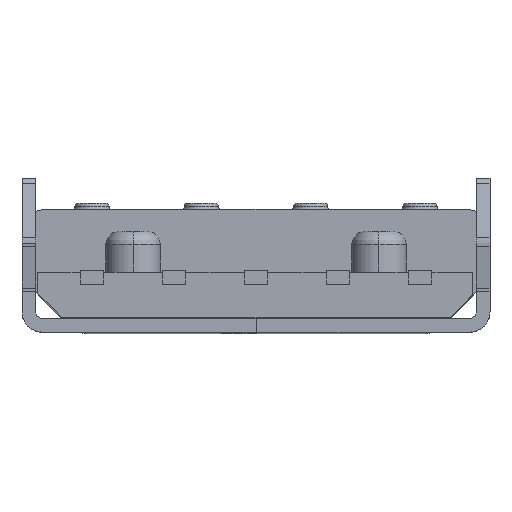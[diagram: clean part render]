
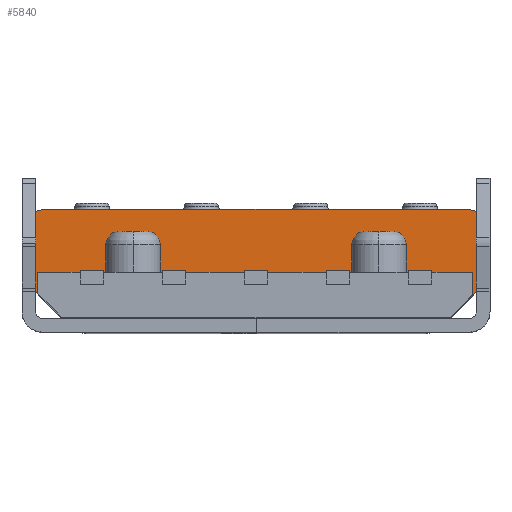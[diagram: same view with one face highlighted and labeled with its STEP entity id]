
A CAD part, top view. The second image highlights one B-rep face of the part: STEP entity #5840.
In plain terms, the highlighted planar face has unit normal (0, 0, 1).
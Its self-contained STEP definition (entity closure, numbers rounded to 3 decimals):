
#93=DIRECTION('',(1.,0.,0.));
#94=VECTOR('',#93,6.364);
#95=CARTESIAN_POINT('',(-3.195,-0.005,4.9));
#96=LINE('',#95,#94);
#461=DIRECTION('',(-0.707,0.707,0.));
#462=VECTOR('',#461,0.181);
#463=CARTESIAN_POINT('',(-3.195,-0.315,4.9));
#464=LINE('',#463,#462);
#465=CARTESIAN_POINT('',(-3.075,0.06,4.9));
#466=DIRECTION('',(0.,0.,-1.));
#467=DIRECTION('',(-0.707,-0.707,0.));
#468=AXIS2_PLACEMENT_3D('',#465,#466,#467);
#470=CARTESIAN_POINT('',(-3.075,0.565,4.9));
#471=DIRECTION('',(0.,0.,-1.));
#472=DIRECTION('',(-1.,0.,0.));
#473=AXIS2_PLACEMENT_3D('',#470,#471,#472);
#475=CARTESIAN_POINT('',(3.075,0.565,4.9));
#476=DIRECTION('',(0.,0.,-1.));
#477=DIRECTION('',(0.,1.,0.));
#478=AXIS2_PLACEMENT_3D('',#475,#476,#477);
#480=CARTESIAN_POINT('',(3.075,0.06,4.9));
#481=DIRECTION('',(0.,0.,-1.));
#482=DIRECTION('',(1.,0.,0.));
#483=AXIS2_PLACEMENT_3D('',#480,#481,#482);
#485=DIRECTION('',(-0.707,-0.707,0.));
#486=VECTOR('',#485,0.216);
#487=CARTESIAN_POINT('',(3.322,-0.188,4.9));
#488=LINE('',#487,#486);
#489=DIRECTION('',(0.,1.,0.));
#490=VECTOR('',#489,0.335);
#491=CARTESIAN_POINT('',(3.17,-0.34,4.9));
#492=LINE('',#491,#490);
#493=DIRECTION('',(0.,1.,0.));
#494=VECTOR('',#493,0.31);
#495=CARTESIAN_POINT('',(-3.195,-0.315,4.9));
#496=LINE('',#495,#494);
#509=DIRECTION('',(0.,-1.,0.));
#510=VECTOR('',#509,0.505);
#511=CARTESIAN_POINT('',(-3.425,0.565,4.9));
#512=LINE('',#511,#510);
#2964=DIRECTION('',(0.,1.,0.));
#2965=VECTOR('',#2964,0.505);
#2966=CARTESIAN_POINT('',(3.425,0.06,4.9));
#2967=LINE('',#2966,#2965);
#2980=DIRECTION('',(-1.,0.,0.));
#2981=VECTOR('',#2980,6.15);
#2982=CARTESIAN_POINT('',(3.075,0.915,4.9));
#2983=LINE('',#2982,#2981);
#4094=CARTESIAN_POINT('',(-3.195,-0.005,4.9));
#4095=VERTEX_POINT('',#4094);
#4096=CARTESIAN_POINT('',(3.17,-0.005,4.9));
#4097=VERTEX_POINT('',#4096);
#4132=CARTESIAN_POINT('',(3.17,-0.34,4.9));
#4133=VERTEX_POINT('',#4132);
#4134=CARTESIAN_POINT('',(-3.195,-0.315,4.9));
#4135=VERTEX_POINT('',#4134);
#4136=CARTESIAN_POINT('',(-3.322,-0.188,4.9));
#4137=VERTEX_POINT('',#4136);
#4138=CARTESIAN_POINT('',(-3.425,0.06,4.9));
#4139=VERTEX_POINT('',#4138);
#4140=CARTESIAN_POINT('',(-3.425,0.565,4.9));
#4141=VERTEX_POINT('',#4140);
#4142=CARTESIAN_POINT('',(-3.075,0.915,4.9));
#4143=VERTEX_POINT('',#4142);
#4144=CARTESIAN_POINT('',(3.075,0.915,4.9));
#4145=VERTEX_POINT('',#4144);
#4146=CARTESIAN_POINT('',(3.425,0.565,4.9));
#4147=VERTEX_POINT('',#4146);
#4148=CARTESIAN_POINT('',(3.425,0.06,4.9));
#4149=VERTEX_POINT('',#4148);
#4150=CARTESIAN_POINT('',(3.322,-0.188,4.9));
#4151=VERTEX_POINT('',#4150);
#5811=CARTESIAN_POINT('',(0.,0.,4.9));
#5812=DIRECTION('',(0.,0.,1.));
#5813=DIRECTION('',(1.,0.,0.));
#5814=AXIS2_PLACEMENT_3D('',#5811,#5812,#5813);
#5815=PLANE('',#5814);
#5817=ORIENTED_EDGE('',*,*,#5816,.F.);
#5819=ORIENTED_EDGE('',*,*,#5818,.T.);
#5821=ORIENTED_EDGE('',*,*,#5820,.T.);
#5823=ORIENTED_EDGE('',*,*,#5822,.F.);
#5825=ORIENTED_EDGE('',*,*,#5824,.T.);
#5827=ORIENTED_EDGE('',*,*,#5826,.F.);
#5829=ORIENTED_EDGE('',*,*,#5828,.T.);
#5831=ORIENTED_EDGE('',*,*,#5830,.F.);
#5833=ORIENTED_EDGE('',*,*,#5832,.T.);
#5835=ORIENTED_EDGE('',*,*,#5834,.T.);
#5836=ORIENTED_EDGE('',*,*,#5802,.T.);
#5837=ORIENTED_EDGE('',*,*,#5335,.F.);
#5838=EDGE_LOOP('',(#5817,#5819,#5821,#5823,#5825,#5827,#5829,#5831,#5833,#5835,
#5836,#5837));
#5839=FACE_OUTER_BOUND('',#5838,.F.);
#469=CIRCLE('',#468,0.35);
#474=CIRCLE('',#473,0.35);
#479=CIRCLE('',#478,0.35);
#484=CIRCLE('',#483,0.35);
#5335=EDGE_CURVE('',#4095,#4097,#96,.T.);
#5802=EDGE_CURVE('',#4133,#4097,#492,.T.);
#5816=EDGE_CURVE('',#4135,#4095,#496,.T.);
#5818=EDGE_CURVE('',#4135,#4137,#464,.T.);
#5820=EDGE_CURVE('',#4137,#4139,#469,.T.);
#5822=EDGE_CURVE('',#4141,#4139,#512,.T.);
#5824=EDGE_CURVE('',#4141,#4143,#474,.T.);
#5826=EDGE_CURVE('',#4145,#4143,#2983,.T.);
#5828=EDGE_CURVE('',#4145,#4147,#479,.T.);
#5830=EDGE_CURVE('',#4149,#4147,#2967,.T.);
#5832=EDGE_CURVE('',#4149,#4151,#484,.T.);
#5834=EDGE_CURVE('',#4151,#4133,#488,.T.);
#5840=ADVANCED_FACE('',(#5839),#5815,.T.);
